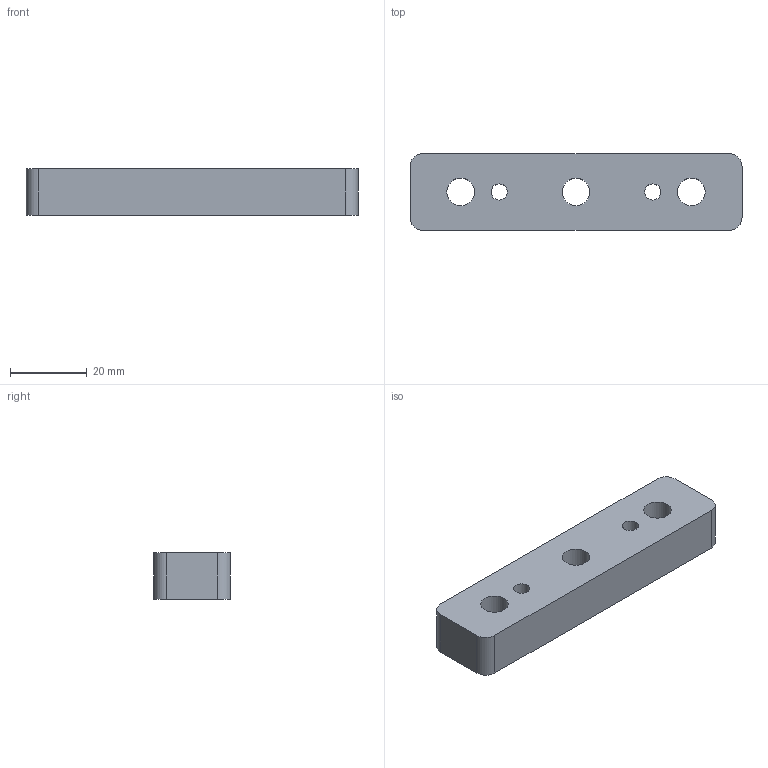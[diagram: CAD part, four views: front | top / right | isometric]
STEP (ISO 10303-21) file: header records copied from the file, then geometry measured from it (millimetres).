
FILE_DESCRIPTION(/* description */ ('STEP AP203'),/* implementation_level */ '2;1');
FILE_NAME(/* name */ 'V-Slot Gantry Plate Spacer Block.step',/* time_stamp */ '2025-09-24T08:24:01+02:00',/* author */ (''),/* organization */ (''),/* preprocessor_version */ 'ST-DEVELOPER v20.1',/* originating_system */ 'Autodesk Translation Framework v14.17.0.0',/* authorisation */ '');
FILE_SCHEMA (('AUTOMOTIVE_DESIGN { 1 0 10303 214 3 1 1 }'));
Length unit declared in the file: millimetre
Products named in the file (1): Spacer Block
Bounding box: 86.4 x 20 x 12 mm (x, y, z)
Volume: 18821.5 mm3; surface area: 6752.3 mm2
Topology: 1 solids, 1 shells, 15 faces, 39 edges, 26 vertices
Faces by surface type: cylinder 9, plane 6
Full cylindrical faces by diameter (mm): 4.2 x2, 7.2 x3
Entity records: 524 total; most frequent: DIRECTION 89, CARTESIAN_POINT 81, ORIENTED_EDGE 78, EDGE_CURVE 39, AXIS2_PLACEMENT_3D 34, VERTEX_POINT 26, EDGE_LOOP 25, LINE 21
